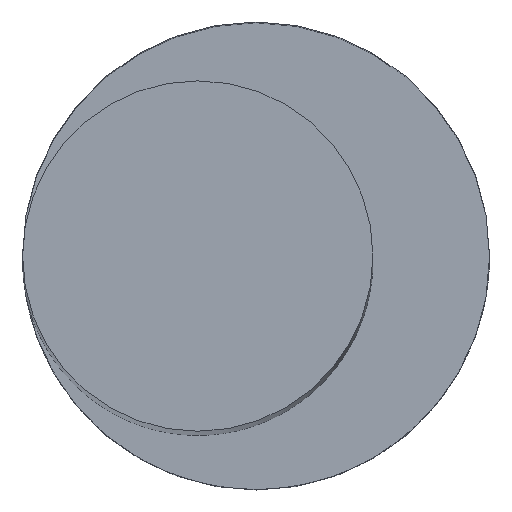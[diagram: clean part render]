
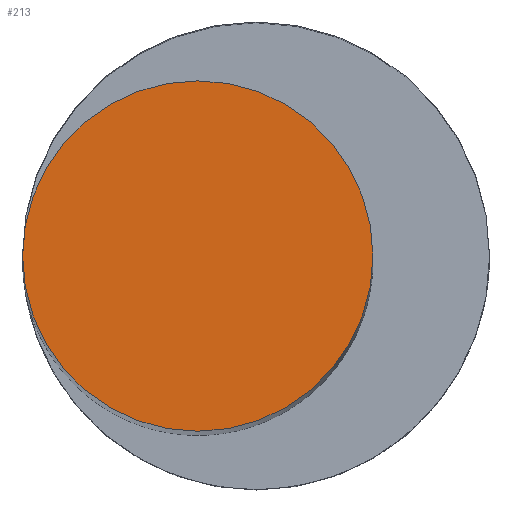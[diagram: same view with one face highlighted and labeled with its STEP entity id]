
A CAD part, top view. The second image highlights one B-rep face of the part: STEP entity #213.
In plain terms, the highlighted planar face has unit normal (0, 0, 1).
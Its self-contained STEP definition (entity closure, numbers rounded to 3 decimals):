
#169=CARTESIAN_POINT('Vertex',(83.198,-35.144,20.)) ;
#176=CARTESIAN_POINT('Vertex',(80.198,-35.144,20.)) ;
#179=CARTESIAN_POINT('Axis2P3D Location',(81.698,-35.144,20.)) ;
#191=CARTESIAN_POINT('Axis2P3D Location',(81.698,-35.144,20.)) ;
#204=CARTESIAN_POINT('Axis2P3D Location',(0.,0.,20.)) ;
#180=DIRECTION('Axis2P3D Direction',(0.,0.,1.)) ;
#192=DIRECTION('Axis2P3D Direction',(0.,0.,1.)) ;
#205=DIRECTION('Axis2P3D Direction',(0.,0.,1.)) ;
#206=DIRECTION('Axis2P3D XDirection',(1.,0.,0.)) ;
#181=AXIS2_PLACEMENT_3D('Circle Axis2P3D',#179,#180,$) ;
#193=AXIS2_PLACEMENT_3D('Circle Axis2P3D',#191,#192,$) ;
#207=AXIS2_PLACEMENT_3D('Plane Axis2P3D',#204,#205,#206) ;
#210=ORIENTED_EDGE('',*,*,#183,.T.) ;
#211=ORIENTED_EDGE('',*,*,#195,.T.) ;
#213=ADVANCED_FACE('Corps principal',(#212),#208,.T.) ;
#182=CIRCLE('generated circle',#181,1.5) ;
#194=CIRCLE('generated circle',#193,1.5) ;
#183=EDGE_CURVE('',#170,#177,#182,.T.) ;
#195=EDGE_CURVE('',#177,#170,#194,.T.) ;
#209=EDGE_LOOP('',(#210,#211)) ;
#212=FACE_OUTER_BOUND('',#209,.T.) ;
#208=PLANE('Plane',#207) ;
#170=VERTEX_POINT('',#169) ;
#177=VERTEX_POINT('',#176) ;
